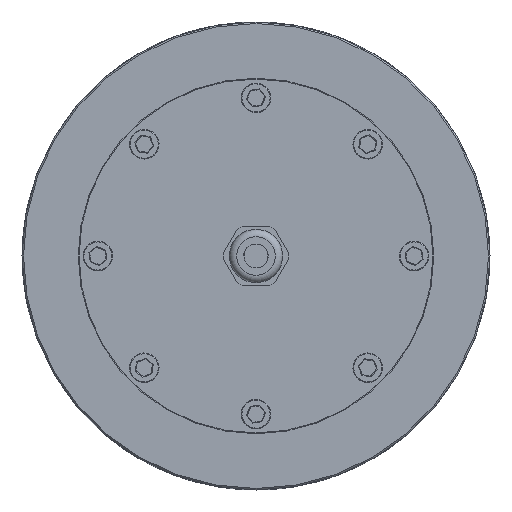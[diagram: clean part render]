
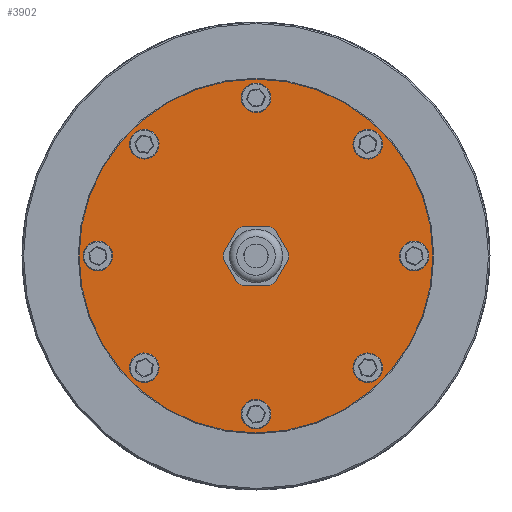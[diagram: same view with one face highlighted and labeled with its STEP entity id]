
A CAD part, left-side view. The second image highlights one B-rep face of the part: STEP entity #3902.
In plain terms, the highlighted planar face has unit normal (-1, 0, 0) as drawn and (0, 0, 1) by its records, which use the part's own axes.
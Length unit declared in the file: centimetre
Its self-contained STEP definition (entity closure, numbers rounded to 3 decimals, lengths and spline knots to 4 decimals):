
#1412=PLANE('',#4170);
#1646=CIRCLE('',#4142,0.325);
#1648=CIRCLE('',#4145,0.325);
#1650=CIRCLE('',#4148,0.325);
#1652=CIRCLE('',#4151,0.325);
#1654=CIRCLE('',#4154,0.325);
#1656=CIRCLE('',#4157,0.325);
#1658=CIRCLE('',#4160,0.325);
#1660=CIRCLE('',#4163,0.325);
#1662=CIRCLE('',#4166,0.7188);
#1663=CIRCLE('',#4168,5.975);
#1946=EDGE_CURVE('',#3367,#3367,#1646,.T.);
#1948=EDGE_CURVE('',#3369,#3369,#1648,.T.);
#1950=EDGE_CURVE('',#3371,#3371,#1650,.T.);
#1952=EDGE_CURVE('',#3373,#3373,#1652,.T.);
#1954=EDGE_CURVE('',#3375,#3375,#1654,.T.);
#1956=EDGE_CURVE('',#3377,#3377,#1656,.T.);
#1958=EDGE_CURVE('',#3379,#3379,#1658,.T.);
#1960=EDGE_CURVE('',#3381,#3381,#1660,.T.);
#1962=EDGE_CURVE('',#3383,#3383,#1662,.T.);
#1963=EDGE_CURVE('',#3384,#3384,#1663,.T.);
#2620=ORIENTED_EDGE('',*,*,#1946,.T.);
#2621=ORIENTED_EDGE('',*,*,#1948,.T.);
#2622=ORIENTED_EDGE('',*,*,#1950,.T.);
#2623=ORIENTED_EDGE('',*,*,#1952,.T.);
#2624=ORIENTED_EDGE('',*,*,#1954,.T.);
#2625=ORIENTED_EDGE('',*,*,#1956,.T.);
#2626=ORIENTED_EDGE('',*,*,#1958,.T.);
#2627=ORIENTED_EDGE('',*,*,#1960,.T.);
#2628=ORIENTED_EDGE('',*,*,#1962,.T.);
#2629=ORIENTED_EDGE('',*,*,#1963,.F.);
#3068=EDGE_LOOP('',(#2620));
#3069=EDGE_LOOP('',(#2621));
#3070=EDGE_LOOP('',(#2622));
#3071=EDGE_LOOP('',(#2623));
#3072=EDGE_LOOP('',(#2624));
#3073=EDGE_LOOP('',(#2625));
#3074=EDGE_LOOP('',(#2626));
#3075=EDGE_LOOP('',(#2627));
#3076=EDGE_LOOP('',(#2628));
#3077=EDGE_LOOP('',(#2629));
#3367=VERTEX_POINT('',#8931);
#3369=VERTEX_POINT('',#8936);
#3371=VERTEX_POINT('',#8941);
#3373=VERTEX_POINT('',#8946);
#3375=VERTEX_POINT('',#8951);
#3377=VERTEX_POINT('',#8956);
#3379=VERTEX_POINT('',#8961);
#3381=VERTEX_POINT('',#8966);
#3383=VERTEX_POINT('',#8971);
#3384=VERTEX_POINT('',#8974);
#3667=FACE_BOUND('',#3068,.T.);
#3668=FACE_BOUND('',#3069,.T.);
#3669=FACE_BOUND('',#3070,.T.);
#3670=FACE_BOUND('',#3071,.T.);
#3671=FACE_BOUND('',#3072,.T.);
#3672=FACE_BOUND('',#3073,.T.);
#3673=FACE_BOUND('',#3074,.T.);
#3674=FACE_BOUND('',#3075,.T.);
#3675=FACE_BOUND('',#3076,.T.);
#3676=FACE_BOUND('',#3077,.T.);
#3902=ADVANCED_FACE('',(#3667,#3668,#3669,#3670,#3671,#3672,#3673,#3674,
#3675,#3676),#1412,.T.);
#4142=AXIS2_PLACEMENT_3D('',#8930,#9876,#9877);
#4145=AXIS2_PLACEMENT_3D('',#8935,#9882,#9883);
#4148=AXIS2_PLACEMENT_3D('',#8940,#9888,#9889);
#4151=AXIS2_PLACEMENT_3D('',#8945,#9894,#9895);
#4154=AXIS2_PLACEMENT_3D('',#8950,#9900,#9901);
#4157=AXIS2_PLACEMENT_3D('',#8955,#9906,#9907);
#4160=AXIS2_PLACEMENT_3D('',#8960,#9912,#9913);
#4163=AXIS2_PLACEMENT_3D('',#8965,#9918,#9919);
#4166=AXIS2_PLACEMENT_3D('',#8970,#9924,#9925);
#4168=AXIS2_PLACEMENT_3D('',#8973,#9928,#9929);
#4170=AXIS2_PLACEMENT_3D('',#8977,#9932,$);
#8930=CARTESIAN_POINT('',(3.7742,-3.7742,0.15));
#8931=CARTESIAN_POINT('',(3.7742,-3.4492,0.15));
#8935=CARTESIAN_POINT('',(0.,-5.3375,0.15));
#8936=CARTESIAN_POINT('',(0.,-5.0125,0.15));
#8940=CARTESIAN_POINT('',(-3.7742,-3.7742,0.15));
#8941=CARTESIAN_POINT('',(-3.7742,-3.4492,0.15));
#8945=CARTESIAN_POINT('',(-5.3375,0.,0.15));
#8946=CARTESIAN_POINT('',(-5.3375,0.325,0.15));
#8950=CARTESIAN_POINT('',(-3.7742,3.7742,0.15));
#8951=CARTESIAN_POINT('',(-3.7742,4.0992,0.15));
#8955=CARTESIAN_POINT('',(0.,5.3375,0.15));
#8956=CARTESIAN_POINT('',(0.,5.6625,0.15));
#8960=CARTESIAN_POINT('',(3.7742,3.7742,0.15));
#8961=CARTESIAN_POINT('',(3.7742,4.0992,0.15));
#8965=CARTESIAN_POINT('',(5.3375,0.,0.15));
#8966=CARTESIAN_POINT('',(5.3375,0.325,0.15));
#8970=CARTESIAN_POINT('',(0.,0.,0.15));
#8971=CARTESIAN_POINT('',(0.,0.7188,0.15));
#8973=CARTESIAN_POINT('',(0.,0.,0.15));
#8974=CARTESIAN_POINT('',(5.975,0.,0.15));
#8977=CARTESIAN_POINT('',(0.,0.,0.15));
#9876=DIRECTION('',(0.,0.,-1.));
#9877=DIRECTION('',(0.,0.325,0.));
#9882=DIRECTION('',(0.,0.,-1.));
#9883=DIRECTION('',(0.,0.325,0.));
#9888=DIRECTION('',(0.,0.,-1.));
#9889=DIRECTION('',(0.,0.325,0.));
#9894=DIRECTION('',(0.,0.,-1.));
#9895=DIRECTION('',(0.,0.325,0.));
#9900=DIRECTION('',(0.,0.,-1.));
#9901=DIRECTION('',(0.,0.325,0.));
#9906=DIRECTION('',(0.,0.,-1.));
#9907=DIRECTION('',(0.,0.325,0.));
#9912=DIRECTION('',(0.,0.,-1.));
#9913=DIRECTION('',(0.,0.325,0.));
#9918=DIRECTION('',(0.,0.,-1.));
#9919=DIRECTION('',(0.,0.325,0.));
#9924=DIRECTION('',(0.,0.,-1.));
#9925=DIRECTION('',(0.,0.719,0.));
#9928=DIRECTION('',(0.,0.,-1.));
#9929=DIRECTION('',(5.975,0.,0.));
#9932=DIRECTION('',(0.,0.,1.));
